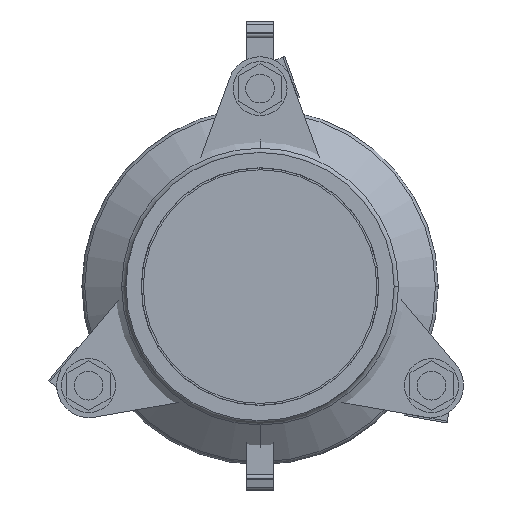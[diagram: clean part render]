
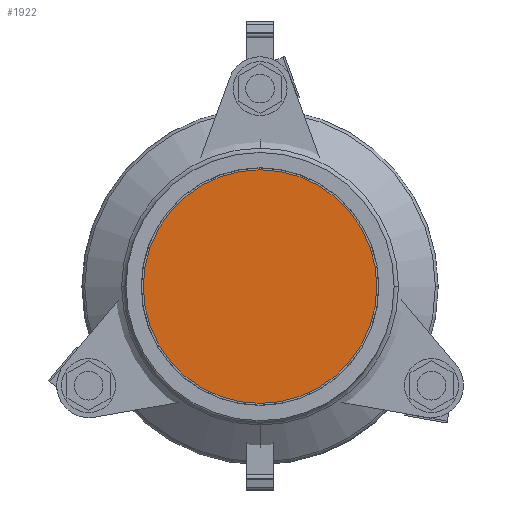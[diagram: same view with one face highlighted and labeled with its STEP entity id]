
A CAD part, left-side view. The second image highlights one B-rep face of the part: STEP entity #1922.
In plain terms, the highlighted planar face has unit normal (-1, 0, 0).
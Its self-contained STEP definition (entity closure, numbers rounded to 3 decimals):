
#1922=ADVANCED_FACE('',(#3491),#3492,.T.);
#3491=FACE_OUTER_BOUND('',#5131,.T.);
#3492=PLANE('',#5132);
#5131=EDGE_LOOP('',(#8675,#8676));
#5132=AXIS2_PLACEMENT_3D('',#8677,#8678,#8679);
#8675=ORIENTED_EDGE('',*,*,#9487,.T.);
#8676=ORIENTED_EDGE('',*,*,#9449,.T.);
#8677=CARTESIAN_POINT('',(9.5,0.0,0.0));
#8678=DIRECTION('',(-1.0,0.0,0.));
#8679=DIRECTION('',(0.,0.0,1.0));
#9449=EDGE_CURVE('',#11265,#11263,#11266,.T.);
#9487=EDGE_CURVE('',#11263,#11265,#11318,.T.);
#11263=VERTEX_POINT('',#13614);
#11265=VERTEX_POINT('',#13617);
#11266=CIRCLE('',#13618,74.5);
#11318=CIRCLE('',#13687,74.5);
#13614=CARTESIAN_POINT('',(9.5,0.0,-74.5));
#13617=CARTESIAN_POINT('',(9.5,0.,74.5));
#13618=AXIS2_PLACEMENT_3D('',#15780,#15781,#15782);
#13687=AXIS2_PLACEMENT_3D('',#15827,#15828,#15829);
#15780=CARTESIAN_POINT('',(9.5,0.0,0.0));
#15781=DIRECTION('',(-1.0,0.0,0.));
#15782=DIRECTION('',(0.,0.0,-1.0));
#15827=CARTESIAN_POINT('',(9.5,0.0,0.0));
#15828=DIRECTION('',(-1.0,0.0,0.));
#15829=DIRECTION('',(0.,0.0,-1.0));
